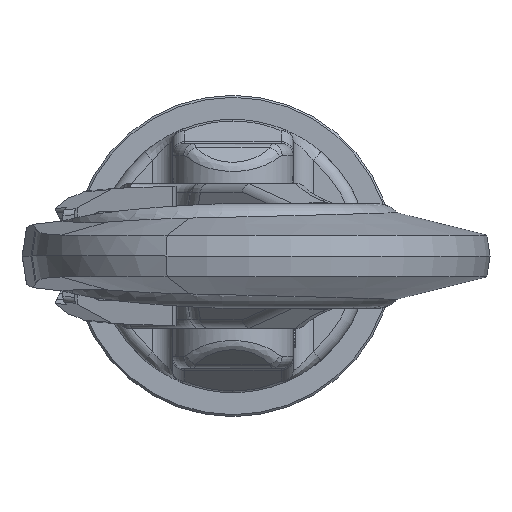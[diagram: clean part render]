
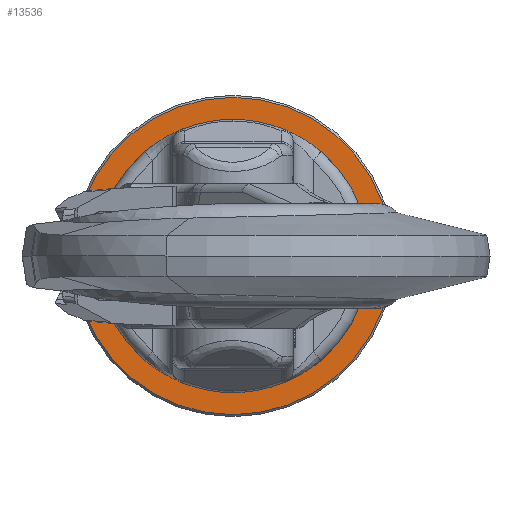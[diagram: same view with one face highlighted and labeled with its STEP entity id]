
A CAD part, left-side view. The second image highlights one B-rep face of the part: STEP entity #13536.
In plain terms, the highlighted planar face has unit normal (-1, 0, 0) as drawn and (0, 0, 1) by its records, which use the part's own axes.
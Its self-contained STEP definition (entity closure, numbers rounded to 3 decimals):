
#13380=CARTESIAN_POINT('',(0.,0.,13.));
#13381=DIRECTION('',(0.,0.,1.));
#13382=DIRECTION('',(1.,0.,0.));
#13383=AXIS2_PLACEMENT_3D('',#13380,#13381,#13382);
#13385=CARTESIAN_POINT('',(0.,0.,13.));
#13386=DIRECTION('',(0.,0.,1.));
#13387=DIRECTION('',(-1.,0.,0.));
#13388=AXIS2_PLACEMENT_3D('',#13385,#13386,#13387);
#13434=CARTESIAN_POINT('',(39.5,0.,13.));
#13435=CARTESIAN_POINT('',(-39.5,0.,13.));
#13436=VERTEX_POINT('',#13434);
#13437=VERTEX_POINT('',#13435);
#13526=CARTESIAN_POINT('',(0.,0.,13.));
#13527=DIRECTION('',(0.,0.,1.));
#13528=DIRECTION('',(1.,0.,0.));
#13529=AXIS2_PLACEMENT_3D('',#13526,#13527,#13528);
#13530=PLANE('',#13529);
#13532=ORIENTED_EDGE('',*,*,#13531,.F.);
#13533=ORIENTED_EDGE('',*,*,#13516,.F.);
#13534=EDGE_LOOP('',(#13532,#13533));
#13535=FACE_OUTER_BOUND('',#13534,.F.);
#13536=ADVANCED_FACE('',(#13535),#13530,.T.);
#13384=CIRCLE('',#13383,39.5);
#13389=CIRCLE('',#13388,39.5);
#13516=EDGE_CURVE('',#13437,#13436,#13389,.T.);
#13531=EDGE_CURVE('',#13436,#13437,#13384,.T.);
